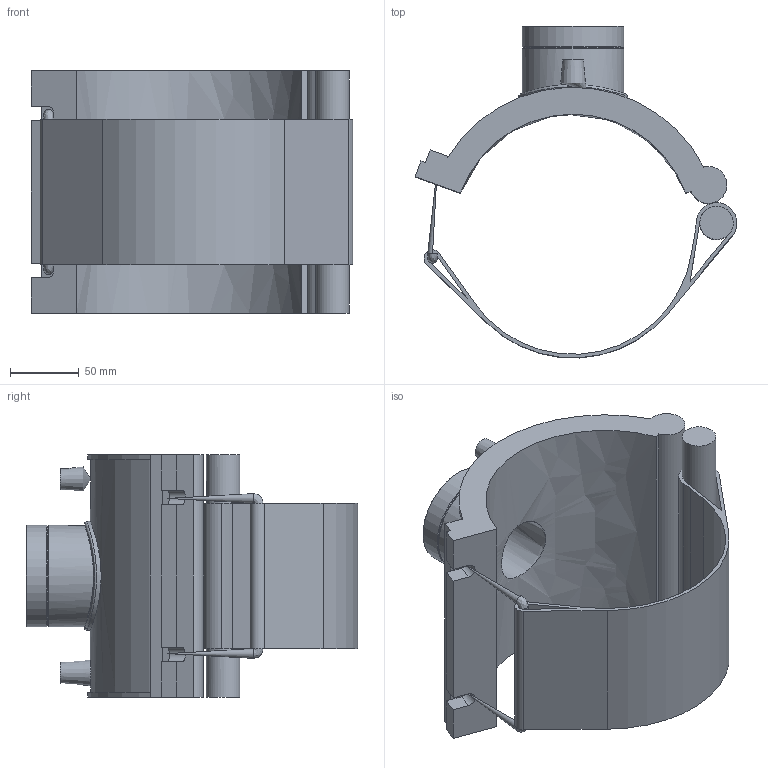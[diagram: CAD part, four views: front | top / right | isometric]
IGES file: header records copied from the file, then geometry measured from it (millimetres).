
Global section: file name: 5938D00306070.ipt; native system: Autodesk Inventor 2019; preprocessor: unknown; author: KIM; date: 20210830.101137; units: inch
Bounding box: 233.85 x 241.17 x 176.02 mm (x, y, z)
Volume: 1146649.8 mm3; surface area: 240005.4 mm2
Topology: 2 solids, 3 shells, 78 faces, 192 edges, 126 vertices
Faces by surface type: plane 42, cylinder 19, revolution 11, cone 5, bspline 1
Full cylindrical faces by diameter (mm): 4 x2, 6.98 x2, 24.296 x1, 72.653 x1, 73.653 x2, 79.318 x1
